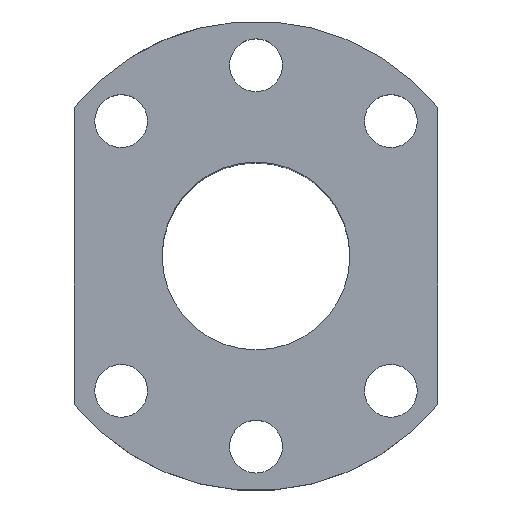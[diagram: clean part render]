
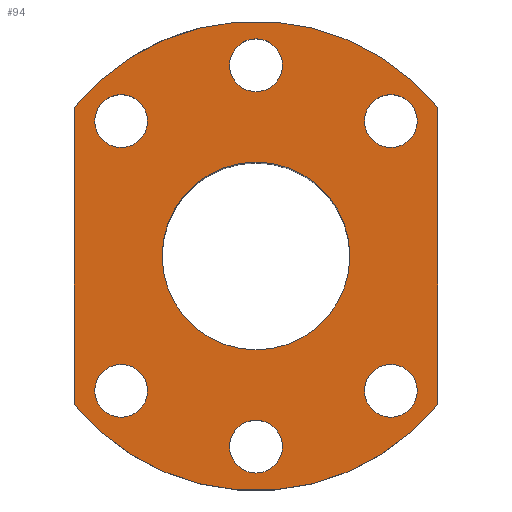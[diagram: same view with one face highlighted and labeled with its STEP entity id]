
A CAD part, top view. The second image highlights one B-rep face of the part: STEP entity #94.
In plain terms, the highlighted planar face has unit normal (0, 0, 1).
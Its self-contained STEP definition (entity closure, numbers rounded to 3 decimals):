
#94=ADVANCED_FACE('',(#204,#205,#206,#207,#208,#209,#210,#211),#212,.T.);
#204=FACE_BOUND('',#343,.T.);
#205=FACE_BOUND('',#344,.T.);
#206=FACE_BOUND('',#345,.T.);
#207=FACE_BOUND('',#346,.T.);
#208=FACE_BOUND('',#347,.T.);
#209=FACE_BOUND('',#348,.T.);
#210=FACE_BOUND('',#349,.T.);
#211=FACE_OUTER_BOUND('',#350,.T.);
#212=PLANE('',#351);
#343=EDGE_LOOP('',(#557,#558));
#344=EDGE_LOOP('',(#559,#560));
#345=EDGE_LOOP('',(#561,#562));
#346=EDGE_LOOP('',(#563,#564));
#347=EDGE_LOOP('',(#565,#566));
#348=EDGE_LOOP('',(#567,#568));
#349=EDGE_LOOP('',(#569,#570));
#350=EDGE_LOOP('',(#571,#572,#573,#574));
#351=AXIS2_PLACEMENT_3D('',#575,#576,#577);
#557=ORIENTED_EDGE('',*,*,#840,.T.);
#558=ORIENTED_EDGE('',*,*,#803,.T.);
#559=ORIENTED_EDGE('',*,*,#841,.T.);
#560=ORIENTED_EDGE('',*,*,#798,.T.);
#561=ORIENTED_EDGE('',*,*,#842,.T.);
#562=ORIENTED_EDGE('',*,*,#793,.T.);
#563=ORIENTED_EDGE('',*,*,#843,.T.);
#564=ORIENTED_EDGE('',*,*,#788,.T.);
#565=ORIENTED_EDGE('',*,*,#844,.T.);
#566=ORIENTED_EDGE('',*,*,#783,.T.);
#567=ORIENTED_EDGE('',*,*,#845,.T.);
#568=ORIENTED_EDGE('',*,*,#778,.T.);
#569=ORIENTED_EDGE('',*,*,#846,.T.);
#570=ORIENTED_EDGE('',*,*,#771,.T.);
#571=ORIENTED_EDGE('',*,*,#837,.T.);
#572=ORIENTED_EDGE('',*,*,#847,.T.);
#573=ORIENTED_EDGE('',*,*,#848,.T.);
#574=ORIENTED_EDGE('',*,*,#849,.T.);
#575=CARTESIAN_POINT('',(0.0,0.0,0.0));
#576=DIRECTION('',(0.,0.0,1.0));
#577=DIRECTION('',(1.0,0.0,0.));
#771=EDGE_CURVE('',#903,#907,#909,.T.);
#778=EDGE_CURVE('',#916,#920,#922,.T.);
#783=EDGE_CURVE('',#925,#929,#931,.T.);
#788=EDGE_CURVE('',#934,#938,#940,.T.);
#793=EDGE_CURVE('',#943,#947,#949,.T.);
#798=EDGE_CURVE('',#952,#956,#958,.T.);
#803=EDGE_CURVE('',#961,#965,#967,.T.);
#837=EDGE_CURVE('',#1020,#1018,#1021,.T.);
#840=EDGE_CURVE('',#965,#961,#1024,.T.);
#841=EDGE_CURVE('',#956,#952,#1025,.T.);
#842=EDGE_CURVE('',#947,#943,#1026,.T.);
#843=EDGE_CURVE('',#938,#934,#1027,.T.);
#844=EDGE_CURVE('',#929,#925,#1028,.T.);
#845=EDGE_CURVE('',#920,#916,#1029,.T.);
#846=EDGE_CURVE('',#907,#903,#1030,.T.);
#847=EDGE_CURVE('',#1018,#1031,#1032,.T.);
#848=EDGE_CURVE('',#1031,#1033,#1034,.T.);
#849=EDGE_CURVE('',#1033,#1020,#1035,.T.);
#903=VERTEX_POINT('',#1093);
#907=VERTEX_POINT('',#1098);
#909=CIRCLE('',#1101,16.0);
#916=VERTEX_POINT('',#1158);
#920=VERTEX_POINT('',#1163);
#922=CIRCLE('',#1166,4.5);
#925=VERTEX_POINT('',#1169);
#929=VERTEX_POINT('',#1174);
#931=CIRCLE('',#1177,4.5);
#934=VERTEX_POINT('',#1180);
#938=VERTEX_POINT('',#1185);
#940=CIRCLE('',#1188,4.5);
#943=VERTEX_POINT('',#1191);
#947=VERTEX_POINT('',#1196);
#949=CIRCLE('',#1199,4.5);
#952=VERTEX_POINT('',#1202);
#956=VERTEX_POINT('',#1207);
#958=CIRCLE('',#1210,4.5);
#961=VERTEX_POINT('',#1213);
#965=VERTEX_POINT('',#1218);
#967=CIRCLE('',#1221,4.5);
#1018=VERTEX_POINT('',#1320);
#1020=VERTEX_POINT('',#1323);
#1021=LINE('',#1324,#1325);
#1024=CIRCLE('',#1329,4.5);
#1025=CIRCLE('',#1330,4.5);
#1026=CIRCLE('',#1331,4.5);
#1027=CIRCLE('',#1332,4.5);
#1028=CIRCLE('',#1333,4.5);
#1029=CIRCLE('',#1334,4.5);
#1030=CIRCLE('',#1335,16.0);
#1031=VERTEX_POINT('',#1336);
#1032=CIRCLE('',#1337,40.0);
#1033=VERTEX_POINT('',#1338);
#1034=LINE('',#1339,#1340);
#1035=CIRCLE('',#1341,40.0);
#1093=CARTESIAN_POINT('',(-16.0,0.,0.));
#1098=CARTESIAN_POINT('',(16.0,0.,0.0));
#1101=AXIS2_PLACEMENT_3D('',#1435,#1436,#1437);
#1158=CARTESIAN_POINT('',(19.799,26.163,0.));
#1163=CARTESIAN_POINT('',(26.163,19.799,0.0));
#1166=AXIS2_PLACEMENT_3D('',#1443,#1444,#1445);
#1169=CARTESIAN_POINT('',(-4.5,32.5,0.));
#1174=CARTESIAN_POINT('',(4.5,32.5,0.0));
#1177=AXIS2_PLACEMENT_3D('',#1451,#1452,#1453);
#1180=CARTESIAN_POINT('',(-26.163,19.799,0.));
#1185=CARTESIAN_POINT('',(-19.799,26.163,0.0));
#1188=AXIS2_PLACEMENT_3D('',#1459,#1460,#1461);
#1191=CARTESIAN_POINT('',(-19.799,-26.163,0.));
#1196=CARTESIAN_POINT('',(-26.163,-19.799,0.0));
#1199=AXIS2_PLACEMENT_3D('',#1467,#1468,#1469);
#1202=CARTESIAN_POINT('',(4.5,-32.5,0.));
#1207=CARTESIAN_POINT('',(-4.5,-32.5,0.0));
#1210=AXIS2_PLACEMENT_3D('',#1475,#1476,#1477);
#1213=CARTESIAN_POINT('',(26.163,-19.799,0.));
#1218=CARTESIAN_POINT('',(19.799,-26.163,0.0));
#1221=AXIS2_PLACEMENT_3D('',#1483,#1484,#1485);
#1320=CARTESIAN_POINT('',(31.0,25.278,0.));
#1323=CARTESIAN_POINT('',(31.0,-25.278,0.));
#1324=CARTESIAN_POINT('',(31.0,0.0,0.));
#1325=VECTOR('',#1526,1.0);
#1329=AXIS2_PLACEMENT_3D('',#1528,#1529,#1530);
#1330=AXIS2_PLACEMENT_3D('',#1531,#1532,#1533);
#1331=AXIS2_PLACEMENT_3D('',#1534,#1535,#1536);
#1332=AXIS2_PLACEMENT_3D('',#1537,#1538,#1539);
#1333=AXIS2_PLACEMENT_3D('',#1540,#1541,#1542);
#1334=AXIS2_PLACEMENT_3D('',#1543,#1544,#1545);
#1335=AXIS2_PLACEMENT_3D('',#1546,#1547,#1548);
#1336=CARTESIAN_POINT('',(-31.0,25.278,0.));
#1337=AXIS2_PLACEMENT_3D('',#1549,#1550,#1551);
#1338=CARTESIAN_POINT('',(-31.0,-25.278,0.));
#1339=CARTESIAN_POINT('',(-31.0,0.0,0.));
#1340=VECTOR('',#1552,1.0);
#1341=AXIS2_PLACEMENT_3D('',#1553,#1554,#1555);
#1435=CARTESIAN_POINT('',(0.0,0.0,0.0));
#1436=DIRECTION('',(0.,0.0,-1.0));
#1437=DIRECTION('',(-1.0,0.0,0.));
#1443=CARTESIAN_POINT('',(22.981,22.981,0.0));
#1444=DIRECTION('',(0.,0.0,-1.0));
#1445=DIRECTION('',(-0.707,0.707,0.));
#1451=CARTESIAN_POINT('',(0.0,32.5,0.0));
#1452=DIRECTION('',(0.,0.0,-1.0));
#1453=DIRECTION('',(-1.0,0.0,0.));
#1459=CARTESIAN_POINT('',(-22.981,22.981,0.0));
#1460=DIRECTION('',(0.,0.0,-1.0));
#1461=DIRECTION('',(-0.707,-0.707,0.));
#1467=CARTESIAN_POINT('',(-22.981,-22.981,0.0));
#1468=DIRECTION('',(0.,0.,-1.0));
#1469=DIRECTION('',(0.707,-0.707,0.));
#1475=CARTESIAN_POINT('',(0.,-32.5,0.0));
#1476=DIRECTION('',(0.,0.0,-1.0));
#1477=DIRECTION('',(1.0,0.,0.));
#1483=CARTESIAN_POINT('',(22.981,-22.981,0.0));
#1484=DIRECTION('',(0.,0.,-1.0));
#1485=DIRECTION('',(0.707,0.707,0.));
#1526=DIRECTION('',(0.0,1.0,0.0));
#1528=CARTESIAN_POINT('',(22.981,-22.981,0.0));
#1529=DIRECTION('',(0.,0.,-1.0));
#1530=DIRECTION('',(0.707,0.707,0.));
#1531=CARTESIAN_POINT('',(0.,-32.5,0.0));
#1532=DIRECTION('',(0.,0.0,-1.0));
#1533=DIRECTION('',(1.0,0.,0.));
#1534=CARTESIAN_POINT('',(-22.981,-22.981,0.0));
#1535=DIRECTION('',(0.,0.,-1.0));
#1536=DIRECTION('',(0.707,-0.707,0.));
#1537=CARTESIAN_POINT('',(-22.981,22.981,0.0));
#1538=DIRECTION('',(0.,0.0,-1.0));
#1539=DIRECTION('',(-0.707,-0.707,0.));
#1540=CARTESIAN_POINT('',(0.0,32.5,0.0));
#1541=DIRECTION('',(0.,0.0,-1.0));
#1542=DIRECTION('',(-1.0,0.0,0.));
#1543=CARTESIAN_POINT('',(22.981,22.981,0.0));
#1544=DIRECTION('',(0.,0.0,-1.0));
#1545=DIRECTION('',(-0.707,0.707,0.));
#1546=CARTESIAN_POINT('',(0.0,0.0,0.0));
#1547=DIRECTION('',(0.,0.0,-1.0));
#1548=DIRECTION('',(-1.0,0.0,0.));
#1549=CARTESIAN_POINT('',(0.0,0.0,0.0));
#1550=DIRECTION('',(0.,0.0,1.0));
#1551=DIRECTION('',(-1.0,0.0,0.));
#1552=DIRECTION('',(0.0,-1.0,-0.0));
#1553=CARTESIAN_POINT('',(0.0,0.0,0.0));
#1554=DIRECTION('',(0.,0.0,1.0));
#1555=DIRECTION('',(-1.0,0.0,0.));
